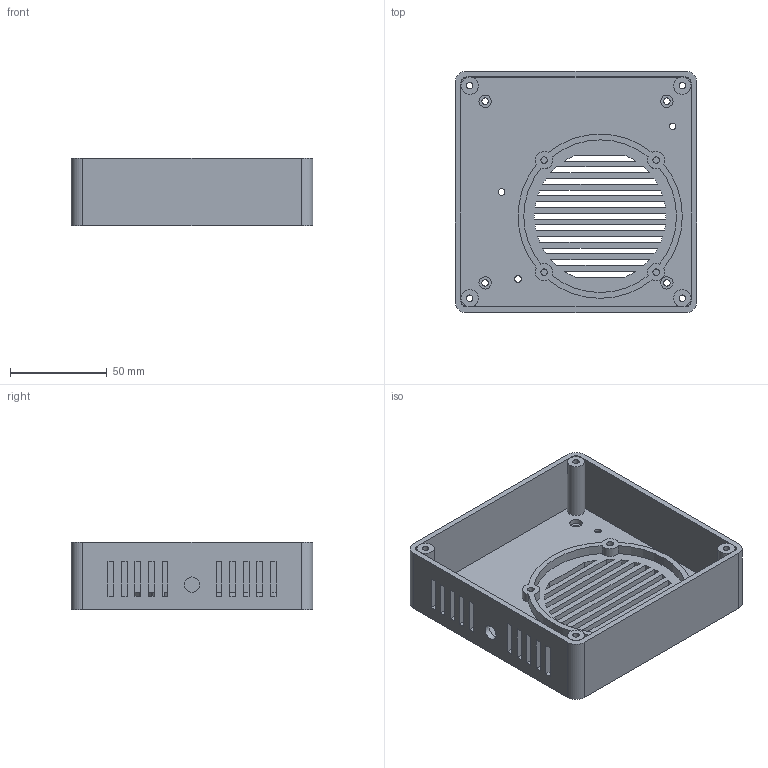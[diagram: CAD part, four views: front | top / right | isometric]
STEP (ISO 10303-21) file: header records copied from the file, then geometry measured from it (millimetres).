
FILE_DESCRIPTION(('Open CASCADE Model'),'2;1');
FILE_NAME('box_lower','2026-11-20T14:15:59',('Author'),('Open CASCADE'), 'Open CASCADE STEP processor 8.0','build123d','Unknown');
FILE_SCHEMA(('AUTOMOTIVE_DESIGN { 1 0 10303 214 1 1 1 1 }'));
Length unit declared in the file: millimetre
Products named in the file (1): box_lower
Bounding box: 125 x 125 x 35 mm (x, y, z)
Volume: 105506.7 mm3; surface area: 73997.6 mm2
Topology: 1 solids, 1 shells, 187 faces, 469 edges, 302 vertices
Faces by surface type: plane 106, cylinder 81
Full cylindrical faces by diameter (mm): 3.4 x15, 6.4 x11, 8 x1
Entity records: 11536 total; most frequent: CARTESIAN_POINT 2493, DIRECTION 1509, ORIENTED_EDGE 954, PCURVE 938, DEFINITIONAL_REPRESENTATION 938, LINE 679, VECTOR 679, EDGE_CURVE 469
